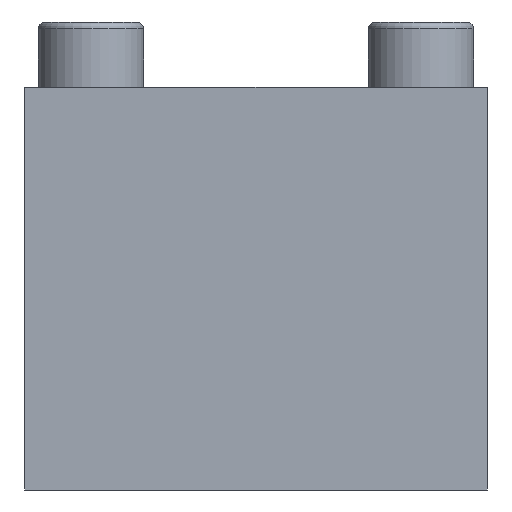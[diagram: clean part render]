
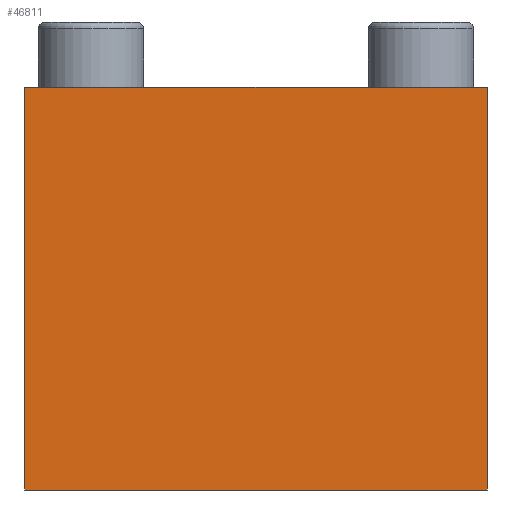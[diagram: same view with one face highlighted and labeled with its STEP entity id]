
A CAD part, front view. The second image highlights one B-rep face of the part: STEP entity #46811.
In plain terms, the highlighted planar face has unit normal (0, -1, 0).
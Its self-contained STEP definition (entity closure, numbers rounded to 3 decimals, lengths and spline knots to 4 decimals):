
#2055=LINE('',#60526,#7203);
#3386=LINE('',#65701,#8534);
#3389=LINE('',#65707,#8537);
#3390=LINE('',#65708,#8538);
#7203=VECTOR('',#51376,7.);
#8534=VECTOR('',#52819,6.1);
#8537=VECTOR('',#52824,6.1);
#8538=VECTOR('',#52825,7.);
#12354=PLANE('',#49383);
#14508=FACE_OUTER_BOUND('',#17240,.T.);
#17240=EDGE_LOOP('',(#32896,#32897,#32898,#32899));
#19939=VERTEX_POINT('',#60523);
#19940=VERTEX_POINT('',#60525);
#21792=VERTEX_POINT('',#65700);
#21794=VERTEX_POINT('',#65706);
#24383=EDGE_CURVE('',#19939,#19940,#2055,.T.);
#26236=EDGE_CURVE('',#19939,#21792,#3386,.T.);
#26239=EDGE_CURVE('',#19940,#21794,#3389,.T.);
#26240=EDGE_CURVE('',#21794,#21792,#3390,.T.);
#32896=ORIENTED_EDGE('',*,*,#26239,.F.);
#32897=ORIENTED_EDGE('',*,*,#24383,.F.);
#32898=ORIENTED_EDGE('',*,*,#26236,.T.);
#32899=ORIENTED_EDGE('',*,*,#26240,.F.);
#46811=ADVANCED_FACE('',(#14508),#12354,.T.);
#49383=AXIS2_PLACEMENT_3D('',#65705,#52822,#52823);
#51376=DIRECTION('',(1.,0.,0.));
#52819=DIRECTION('',(0.,0.,-1.));
#52822=DIRECTION('center_axis',(0.,-1.,0.));
#52823=DIRECTION('ref_axis',(-1.,0.,0.));
#52824=DIRECTION('',(0.,0.,-1.));
#52825=DIRECTION('',(-1.,0.,0.));
#60523=CARTESIAN_POINT('',(-3.5,-15.5,4.85));
#60525=CARTESIAN_POINT('',(3.5,-15.5,4.85));
#60526=CARTESIAN_POINT('',(3.5,-15.5,4.85));
#65700=CARTESIAN_POINT('',(-3.5,-15.5,-1.25));
#65701=CARTESIAN_POINT('',(-3.5,-15.5,0.));
#65705=CARTESIAN_POINT('Origin',(3.5,-15.5,3.6));
#65706=CARTESIAN_POINT('',(3.5,-15.5,-1.25));
#65707=CARTESIAN_POINT('',(3.5,-15.5,0.));
#65708=CARTESIAN_POINT('',(3.5,-15.5,-1.25));
